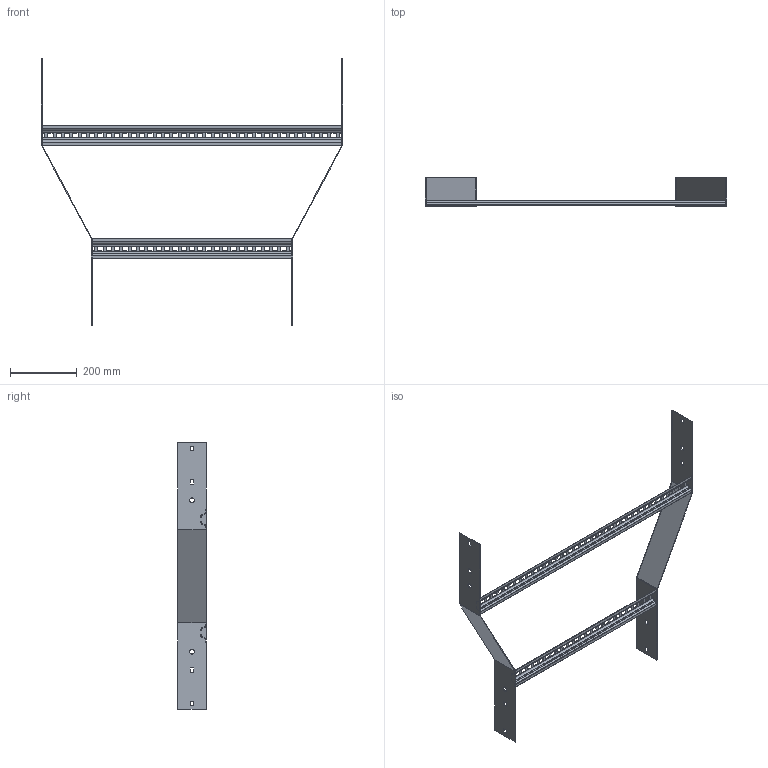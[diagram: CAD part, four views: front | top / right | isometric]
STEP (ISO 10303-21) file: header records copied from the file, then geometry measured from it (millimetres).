
FILE_DESCRIPTION (( 'STEP AP203' ), '1' );
FILE_NAME ('N2 SR900600.STEP', '2024-08-27T22:27:36', ( '' ), ( '' ), 'SwSTEP 2.0', 'SolidWorks 2023', '' );
FILE_SCHEMA (( 'CONFIG_CONTROL_DESIGN' ));
Length unit declared in the file: millimetre
Products named in the file (4): Ladder Rung_Ladder Rung -  900mm; Ladder Rung_Ladder Rung -  600mm; N2 SR900600; N2 Reducer side plate_SR600x900
Assembly tree (4 placements, depth 2):
  N2 SR900600
    N2 Reducer side plate_SR600x900  x2
    Ladder Rung_Ladder Rung -  600mm
    Ladder Rung_Ladder Rung -  900mm
Bounding box: 904 x 87 x 800 mm (x, y, z)
Volume: 447996.2 mm3; surface area: 507285.6 mm2
Topology: 4 solids, 4 shells, 408 faces, 1104 edges, 704 vertices
Faces by surface type: plane 376, cylinder 32
Entity records: 11974 total; most frequent: CARTESIAN_POINT 2013, ORIENTED_EDGE 2000, DIRECTION 1794, EDGE_CURVE 1000, LINE 952, VECTOR 952, VERTEX_POINT 640, EDGE_LOOP 494
